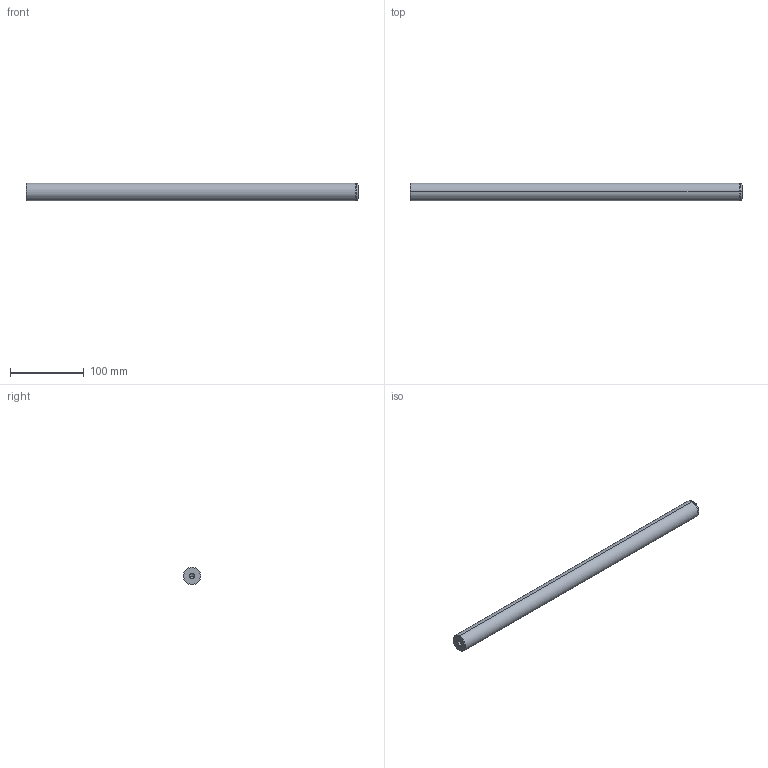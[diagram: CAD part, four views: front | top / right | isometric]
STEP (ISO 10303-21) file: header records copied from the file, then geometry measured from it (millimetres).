
FILE_DESCRIPTION(('CATIA V5 STEP Exchange'),'2;1');
FILE_NAME('C:\Users\Utente\Desktop\IO LAVORO\3D X SITO CF\X SITO\720\720-24x450.stp','2021-01-01T12:46:15+00:00',('none'),('none'),'CATIA Version 5 Release 20 GA (IN-10)','CATIA V5 STEP AP203','none');
FILE_SCHEMA(('CONFIG_CONTROL_DESIGN'));
Length unit declared in the file: millimetre
Products named in the file (1): 720-24x450
Bounding box: 450 x 24 x 24 mm (x, y, z)
Volume: 201609.4 mm3; surface area: 35669.2 mm2
Topology: 1 solids, 1 shells, 22 faces, 62 edges, 40 vertices
Faces by surface type: cone 12, cylinder 6, plane 2, torus 2
Entity records: 806 total; most frequent: CARTESIAN_POINT 229, ORIENTED_EDGE 116, DIRECTION 93, EDGE_CURVE 58, AXIS2_PLACEMENT_3D 54, VERTEX_POINT 40, CIRCLE 31, EDGE_LOOP 24
